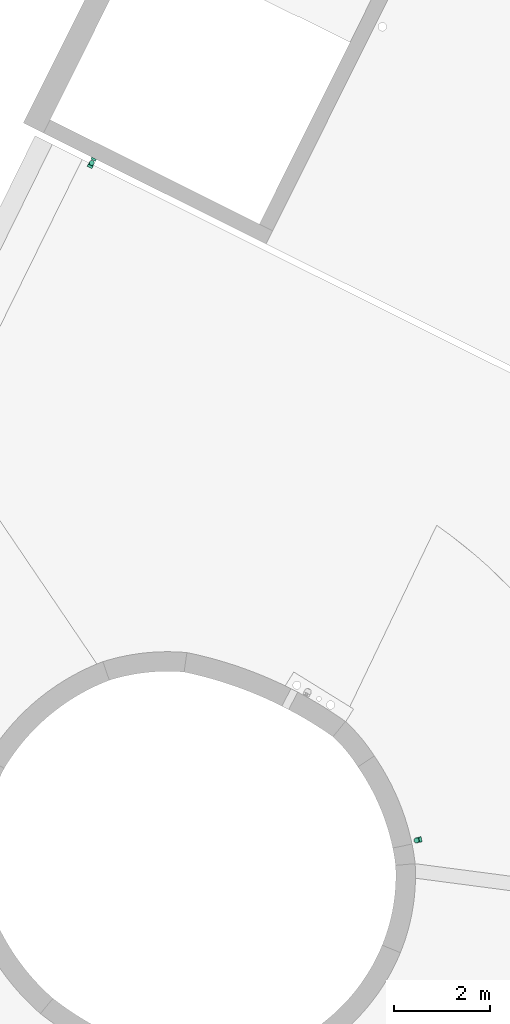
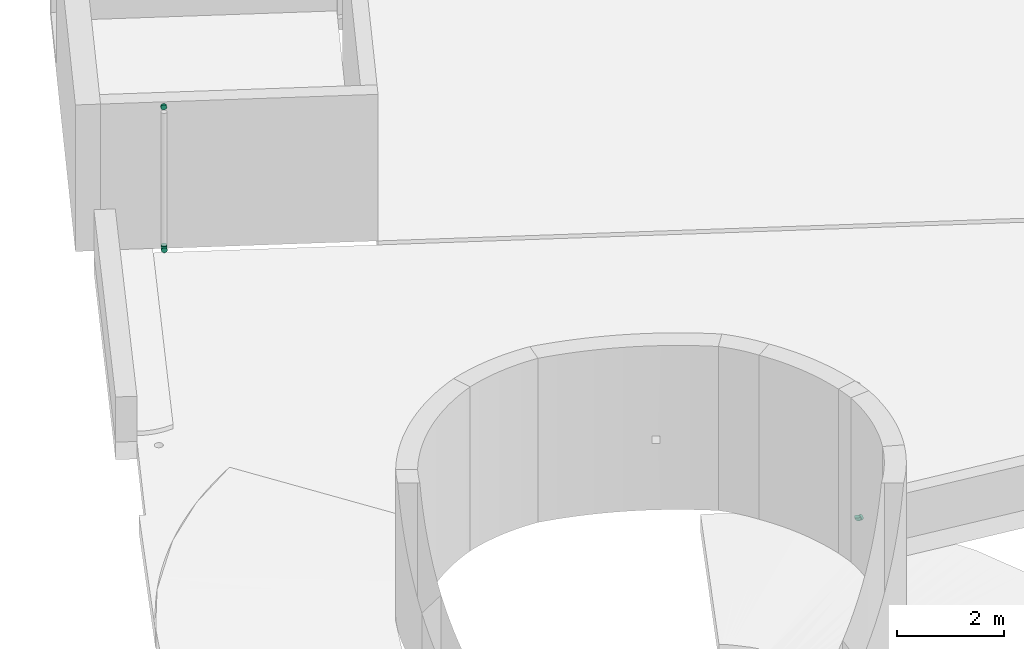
# One storey, part 16 of 34: 3 flow segments, 2 flow fittings.
"""IFC2X3 building model written with IfcOpenShell, lengths in metres."""

from ifc_helpers import new_model, entity, si_unit, converted_unit, derived_unit, direction, frame, frame_2d, origin, origin_2d_with_axis, place, context, subcontext, project, spatial, circle, extrude, faceted_brep, source, transform, mapped, type_object, type_shapes, element, save


model = new_model("IFC2X3")

# Units and contexts
model_context = context("Model", 3, precision=1e-05, world=origin(), true_north=direction((0.894925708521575, 0.446215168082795)))
context_of_model = context(None, 3, precision=1e-05, world=origin(), true_north=direction((0.894925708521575, 0.446215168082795)))
body_context = subcontext(model_context, "Body", "Model", "MODEL_VIEW")
ifc_project = project(units=[si_unit("LENGTHUNIT", "METRE"), si_unit("AREAUNIT", "SQUARE_METRE"), si_unit("VOLUMEUNIT", "CUBIC_METRE"), converted_unit("PLANEANGLEUNIT", "DEGREE", entity("IfcRatioMeasure", 0.0174532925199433), si_unit("PLANEANGLEUNIT", "RADIAN"), dimensions=[0, 0, 0, 0, 0, 0, 0]), si_unit("MASSUNIT", "GRAM", prefix="KILO"), si_unit("TIMEUNIT", "SECOND"), si_unit("FREQUENCYUNIT", "HERTZ"), si_unit("THERMODYNAMICTEMPERATUREUNIT", "DEGREE_CELSIUS"), derived_unit("THERMALTRANSMITTANCEUNIT", [(si_unit("MASSUNIT", "GRAM", prefix="KILO"), 1), (si_unit("THERMODYNAMICTEMPERATUREUNIT", "KELVIN"), -1), (si_unit("TIMEUNIT", "SECOND"), -3)]), derived_unit("VOLUMETRICFLOWRATEUNIT", [(si_unit("LENGTHUNIT", "METRE"), 3), (si_unit("TIMEUNIT", "SECOND"), -1)]), si_unit("ELECTRICCURRENTUNIT", "AMPERE"), si_unit("ELECTRICVOLTAGEUNIT", "VOLT"), si_unit("POWERUNIT", "WATT"), si_unit("FORCEUNIT", "NEWTON", prefix="KILO"), si_unit("ILLUMINANCEUNIT", "LUX"), si_unit("LUMINOUSFLUXUNIT", "LUMEN"), si_unit("LUMINOUSINTENSITYUNIT", "CANDELA"), si_unit("PRESSUREUNIT", "PASCAL")], contexts=[model_context, context_of_model])

# Site, building, storey
site_placement = place(None, frame((218.228324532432, 584.720189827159, 0.0), z_axis=(0.0, 0.0, 1.0), x_axis=(0.446215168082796, 0.894925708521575, 0.0)))
site = spatial("IfcSite", under=ifc_project, at=site_placement, Name="Default", CompositionType="ELEMENT")
building_placement = place(site_placement, origin())
building = spatial("IfcBuilding", under=site, at=building_placement, CompositionType="ELEMENT")
storey_placement = place(building_placement, frame((0.0, 0.0, 8.61)))
storey = spatial("IfcBuildingStorey", under=building, at=storey_placement, Name="2 - Piano Secondo", CompositionType="ELEMENT", Elevation=8.61)

# Flow segments
pipe_segment_type = type_object("IfcPipeSegmentType", Name="Tubazione:Pluviale-Tubazione Inox", PredefinedType="NOTDEFINED")
flow_segment_1_placement = place(storey_placement, frame((-60.7453368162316, 4.75017573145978, 0.0484047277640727)))
element("IfcFlowSegment", 1, at=flow_segment_1_placement, inside=storey, type_object=pipe_segment_type, Name="Tubazione:Pluviale-Tubazione Inox", ObjectType="Tubazione:Pluviale-Tubazione Inox", context=body_context, shape_type="SweptSolid", body=[
    extrude(circle(Radius=0.05715, at=frame_2d((5.41433564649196e-16, 0.0), x_axis=(1.0, 0.0))), frame((0.0, 0.0587452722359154, 0.0587452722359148), z_axis=(1.0, 0.0, 0.0), x_axis=(0.0, 1.0, 0.0)), (0.0, 0.0, 1.0), 0.0499999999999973),
])
flow_segment_2_placement = place(storey_placement, frame((-60.5778618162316, 4.75017573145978, 3.18840472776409)))
element("IfcFlowSegment", 2, at=flow_segment_2_placement, inside=storey, type_object=pipe_segment_type, Name="Tubazione:Pluviale-Tubazione Inox", ObjectType="Tubazione:Pluviale-Tubazione Inox", context=body_context, shape_type="SweptSolid", body=[
    extrude(circle(Radius=0.05715, at=origin_2d_with_axis()), frame((0.0, 0.0587452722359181, 0.0587452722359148), z_axis=(1.0, 0.0, 0.0), x_axis=(0.0, -1.0, 0.0)), (0.0, 0.0, 1.0), 0.0462625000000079),
])
flow_segment_3_placement = place(storey_placement, frame((-70.2756130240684, -7.68673129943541, 0.0484047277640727)))
element("IfcFlowSegment", 3, at=flow_segment_3_placement, inside=storey, type_object=pipe_segment_type, Name="Tubazione:Pluviale-Tubazione Inox", ObjectType="Tubazione:Pluviale-Tubazione Inox", context=body_context, shape_type="SweptSolid", body=[
    extrude(circle(Radius=0.05715, at=origin_2d_with_axis()), frame((0.0459949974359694, 0.0764233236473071, 0.0587452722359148), z_axis=(0.629626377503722, -0.776898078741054, 0.0), x_axis=(-0.776898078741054, -0.629626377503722, 0.0)), (0.0, 0.0, 1.0), 0.0499999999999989),
])

# Flow fittings
pipe_fitting_type = type_object("IfcPipeFittingType", Name="Standard", PredefinedType="NOTDEFINED")
shared_shape = source(origin(), body_context, "Body", "Brep", [
    faceted_brep([(-0.0587374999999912, 0.0135588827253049, -0.0506024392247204), (-0.0587374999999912, 0.0, -0.0523875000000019), (-0.0587374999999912, -0.0135588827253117, -0.0506024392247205), (-0.0587374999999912, -0.0261937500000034, -0.0453689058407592), (-0.0587374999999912, -0.0370435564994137, -0.0370435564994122), (-0.0587374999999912, -0.0453689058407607, -0.026193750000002), (-0.0587374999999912, -0.0506024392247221, -0.0135588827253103), (-0.0587374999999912, -0.0523875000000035, 0.0), (-0.0587374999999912, -0.0506024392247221, 0.0135588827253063), (-0.0587374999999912, -0.0453689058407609, 0.026193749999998), (-0.0587374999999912, -0.0370435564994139, 0.0370435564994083), (-0.0587374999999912, -0.0261937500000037, 0.0453689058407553), (-0.0587374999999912, -0.013558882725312, 0.0506024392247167), (-0.0587374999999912, 0.0, 0.0523874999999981), (-0.0587374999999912, 0.0135588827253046, 0.0506024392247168), (-0.0587374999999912, 0.0198763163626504, 0.0479856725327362), (-0.0587374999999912, 0.0261937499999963, 0.0453689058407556), (-0.0587374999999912, 0.0370435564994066, 0.0370435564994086), (-0.0587374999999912, 0.0453689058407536, 0.0261937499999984), (-0.0587374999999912, 0.050602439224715, 0.0135588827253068), (-0.0587374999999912, 0.0523874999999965, 0.0), (-0.0587374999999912, 0.0506024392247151, -0.0135588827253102), (-0.0587374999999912, 0.0453689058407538, -0.0261937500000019), (-0.0587374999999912, 0.0370435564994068, -0.0370435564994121), (-0.0587374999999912, 0.0261937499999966, -0.0453689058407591), (-0.0506024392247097, 0.0587374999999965, -0.0135588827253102), (-0.0523874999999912, 0.0587374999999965, 0.0), (-0.0506024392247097, 0.0587374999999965, 0.0135588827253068), (-0.0453689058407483, 0.0587374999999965, 0.0261937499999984), (-0.0370435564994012, 0.0587374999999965, 0.0370435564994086), (-0.0261937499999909, 0.0587374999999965, 0.0453689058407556), (-0.0135588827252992, 0.0587374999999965, 0.0506024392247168), (0.0, 0.0587374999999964, 0.0523874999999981), (0.0135588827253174, 0.0587374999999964, 0.0506024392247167), (0.026193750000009, 0.0587374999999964, 0.0453689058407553), (0.0370435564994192, 0.0587374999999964, 0.0370435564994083), (0.0453689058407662, 0.0587374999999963, 0.026193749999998), (0.0506024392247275, 0.0587374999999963, 0.0135588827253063), (0.0523875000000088, 0.0587374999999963, 0.0), (0.0506024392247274, 0.0587374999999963, -0.0135588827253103), (0.0453689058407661, 0.0587374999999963, -0.026193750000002), (0.037043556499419, 0.0587374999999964, -0.0370435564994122), (0.0261937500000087, 0.0587374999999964, -0.0453689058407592), (0.0135588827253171, 0.0587374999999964, -0.0506024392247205), (0.0, 0.0587374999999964, -0.0523875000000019), (-0.0135588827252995, 0.0587374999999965, -0.0506024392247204), (-0.0198763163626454, 0.0587374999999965, -0.0479856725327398), (-0.0261937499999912, 0.0587374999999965, -0.0453689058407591), (-0.0370435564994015, 0.0587374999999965, -0.0370435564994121), (-0.0453689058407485, 0.0587374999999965, -0.0261937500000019), (-0.0477232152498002, -0.0428768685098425, 0.029234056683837), (-0.0404424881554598, -0.0487405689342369, 0.0146871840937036), (-0.0330754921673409, -0.0426115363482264, 0.02541456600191), (-0.0415677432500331, -0.049668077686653, 0.0), (0.0487405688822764, 0.0404424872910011, 0.0146871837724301), (0.031246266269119, 0.0148508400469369, 0.0321295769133), (0.0388833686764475, 0.0178115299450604, 0.0229045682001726), (0.0367285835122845, 0.0270467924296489, 0.0315108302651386), (-0.0199941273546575, -0.0437374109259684, 0.0127317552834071), (-0.0243979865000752, -0.0469486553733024, 0.0), (-0.00890892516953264, -0.039056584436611, 0.0), (0.0201213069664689, 0.0171012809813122, 0.042637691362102), (0.0230744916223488, 0.037920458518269, 0.0456608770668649), (0.00972866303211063, 0.0282591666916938, 0.0498177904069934), (-0.0491222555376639, 0.0144700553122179, 0.0506347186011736), (-0.0461599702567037, 0.0299660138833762, 0.0446893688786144), (-0.0379204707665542, -0.0230744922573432, 0.0456608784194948), (-0.0171012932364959, -0.0201213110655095, 0.0426376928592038), (-0.028259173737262, -0.00972866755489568, 0.0498177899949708), (-0.040589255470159, -0.0342234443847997, 0.0380789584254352), (-0.0270467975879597, -0.0367285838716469, 0.0315108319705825), (-0.0271152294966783, -0.0291112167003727, 0.03930979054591), (-0.0534446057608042, 0.0534446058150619, 0.0108471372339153), (-0.0495063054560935, 0.0496646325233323, 0.025443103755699), (-0.0173243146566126, 0.0419210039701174, 0.0504710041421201), (-0.00371546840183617, 0.0428654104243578, 0.0523668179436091), (-0.0450087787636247, -0.00973337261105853, 0.0511988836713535), (-0.0299568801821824, 0.046486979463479, 0.0446150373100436), (-0.0399230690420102, 0.0173966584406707, 0.0506667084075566), (-0.0424424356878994, 0.00369105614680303, 0.052370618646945), (-0.0263131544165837, 0.00911196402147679, 0.0523846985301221), (-0.00146414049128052, -0.0204367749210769, 0.0349996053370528), (0.00326567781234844, -0.0262911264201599, 0.0241349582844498), (0.0134674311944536, -0.014700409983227, 0.0280406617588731), (-0.051439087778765, 0.0405009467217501, 0.0348719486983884), (0.00973337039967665, 0.0450087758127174, 0.0511988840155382), (0.035173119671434, 0.00432985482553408, 0.0162746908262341), (0.0311645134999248, -0.00658013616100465, 0.0), (0.0390565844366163, 0.00890892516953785, 0.0), (0.00819521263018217, -0.00866873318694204, 0.0378156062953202), (-0.00965050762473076, -0.0101996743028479, 0.0455427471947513), (0.0428768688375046, 0.047723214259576, 0.0292340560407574), (-0.0246124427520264, 0.0342586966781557, 0.0496407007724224), (-0.0333214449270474, 0.0280057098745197, 0.048875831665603), (-0.0208506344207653, 0.0237046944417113, 0.0518992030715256), (0.0342234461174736, 0.0405892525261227, 0.0380789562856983), (0.0291112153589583, 0.0271152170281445, 0.0393097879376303), (0.0469486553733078, 0.0243979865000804, 0.0), (0.0496680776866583, 0.0415677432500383, 0.0), (0.043737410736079, 0.0199941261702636, 0.0127317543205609), (-0.00986713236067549, 0.0306998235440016, 0.0523327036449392), (-0.0542473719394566, 0.0542473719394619, 0.0), (-0.0405009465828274, 0.0514390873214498, 0.0348719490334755), (-0.0424073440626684, 0.0424073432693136, 0.0383928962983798), (0.0238466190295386, -0.0126740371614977, 0.0141509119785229), (-0.0141620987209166, -0.000990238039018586, 0.0499511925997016), (-0.00750695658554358, 0.0132290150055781, 0.0514652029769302), (0.00658013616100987, -0.0311645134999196, 0.0), (-0.00432985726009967, -0.0351731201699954, 0.0162746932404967), (0.042611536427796, 0.0330754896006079, 0.025414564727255), (-0.0347196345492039, 0.037964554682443, 0.0449042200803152), (0.000171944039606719, 0.0306895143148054, 0.0519816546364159), (-0.0178115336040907, -0.0388833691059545, 0.022904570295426), (0.0188723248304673, -0.0188723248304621, 0.0), (0.0120090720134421, -0.0250981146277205, 0.0121471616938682), (0.0200875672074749, 0.000757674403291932, 0.0348495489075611), (0.024463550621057, -0.0051316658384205, 0.0247890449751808), (0.000788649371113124, -0.000788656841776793, 0.0457929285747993), (0.00240405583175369, 0.0189002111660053, 0.0504158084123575), (0.0110535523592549, 0.0154294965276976, 0.0468715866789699), (-0.0148508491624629, -0.0312462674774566, 0.0321295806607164), (0.0125287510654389, 0.00468746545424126, 0.0424445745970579), (-0.0144700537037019, 0.0491222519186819, -0.0506347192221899), (-0.00432985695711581, -0.0351731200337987, -0.0162746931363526), (-0.0199941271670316, -0.0437374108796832, -0.0127317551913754), (-0.041921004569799, 0.0173243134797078, -0.0504710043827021), (-0.0428654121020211, 0.00371546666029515, -0.0523668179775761), (-0.0496646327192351, 0.0495063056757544, -0.0254431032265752), (-0.0424073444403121, 0.0424073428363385, -0.0383928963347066), (-0.0514390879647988, 0.0405009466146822, -0.0348719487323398), (0.020436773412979, 0.00146413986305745, -0.0349996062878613), (0.00866872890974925, -0.00819521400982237, -0.0378156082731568), (0.0101996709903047, 0.00965050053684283, -0.0455427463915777), (-0.0171012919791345, -0.020121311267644, -0.0426376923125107), (-0.0148508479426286, -0.0312462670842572, -0.0321295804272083), (-0.027115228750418, -0.0291112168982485, -0.0393097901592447), (-0.00911196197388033, 0.0263131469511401, -0.0523846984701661), (0.00972866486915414, 0.0282591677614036, -0.049817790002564), (0.000990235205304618, 0.0141620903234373, -0.0499511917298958), (-0.0132290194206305, 0.0075069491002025, -0.0514652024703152), (-0.0237046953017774, 0.0208506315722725, -0.0518992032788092), (-0.0404424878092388, -0.0487405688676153, -0.014687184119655), (-0.0477232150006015, -0.0428768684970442, -0.0292340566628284), (-0.0280057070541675, 0.0333214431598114, -0.0488758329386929), (-0.0299660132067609, 0.0461599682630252, -0.0446893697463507), (-0.0173966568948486, 0.0399230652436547, -0.0506667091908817), (-0.0534446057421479, 0.0534446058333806, -0.0108471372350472), (-0.0405892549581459, -0.034223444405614, -0.0380789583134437), (-0.0379204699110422, -0.0230744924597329, -0.0456608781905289), (-0.0282591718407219, -0.00972866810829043, -0.0498177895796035), (-0.0342586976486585, 0.0246124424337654, -0.0496407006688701), (-0.0464869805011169, 0.0299568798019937, -0.044615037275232), (-0.045008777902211, -0.00973337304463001, -0.0511988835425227), (-0.0178115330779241, -0.0388833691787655, -0.022904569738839), (-0.0270467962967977, -0.0367285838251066, -0.0315108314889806), (-0.0330754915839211, -0.0426115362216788, -0.0254145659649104), (0.0230744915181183, 0.0379204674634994, -0.0456608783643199), (0.0291112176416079, 0.0271152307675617, -0.0393097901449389), (0.0201213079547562, 0.0171012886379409, -0.0426376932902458), (-0.040500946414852, 0.0514390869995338, -0.0348719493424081), (-0.00369105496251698, 0.0424424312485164, -0.0523706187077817), (0.0428768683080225, 0.0477232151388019, -0.0292340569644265), (0.00973337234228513, 0.045008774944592, -0.0511988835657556), (0.0342234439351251, 0.0405892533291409, -0.0380789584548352), (0.0262911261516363, -0.00326567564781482, -0.0241349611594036), (0.0147004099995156, -0.0134674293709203, -0.0280406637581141), (0.0487405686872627, 0.0404424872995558, -0.0146871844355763), (0.0437374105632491, 0.0199941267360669, -0.0127317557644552), (0.0426115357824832, 0.0330754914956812, -0.0254145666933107), (0.0126740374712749, -0.0238466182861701, -0.0141509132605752), (-0.0306998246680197, 0.00986712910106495, -0.052332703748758), (0.0367285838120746, 0.0270467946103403, -0.0315108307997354), (0.0351731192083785, 0.00432985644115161, -0.0162746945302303), (-0.0379645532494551, 0.0347196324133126, -0.0449042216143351), (-0.0306895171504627, -0.000171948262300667, -0.0519816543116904), (0.0388833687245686, 0.0178115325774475, -0.0229045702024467), (0.025098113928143, -0.0120090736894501, -0.0121471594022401), (-0.000757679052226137, -0.0200875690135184, -0.0348495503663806), (0.0051316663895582, -0.0244635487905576, -0.0247890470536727), (0.000788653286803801, -0.000788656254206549, -0.0457929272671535), (-0.0189002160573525, -0.00240406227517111, -0.050415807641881), (-0.0154295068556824, -0.0110535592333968, -0.0468715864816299), (0.0312462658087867, 0.0148508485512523, -0.0321295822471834), (-0.00468747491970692, -0.0125287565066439, -0.0424445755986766)], [[[0, 1, 2, 3, 4, 5, 6, 7, 8, 9, 10, 11, 12, 13, 14, 15, 16, 17, 18, 19, 20, 21, 22, 23, 24]], [[25, 26, 27, 28, 29, 30, 31, 32, 33, 34, 35, 36, 37, 38, 39, 40, 41, 42, 43, 44, 45, 46, 47, 48, 49]], [[50, 51, 52]], [[53, 8, 7]], [[36, 54, 37]], [[55, 56, 57]], [[58, 59, 60]], [[61, 62, 63]], [[64, 65, 16]], [[66, 67, 68]], [[11, 69, 66]], [[70, 71, 69]], [[72, 73, 27]], [[31, 74, 75]], [[66, 68, 76]], [[13, 12, 76]], [[30, 77, 74]], [[16, 15, 14, 64]], [[78, 79, 80]], [[81, 82, 83]], [[51, 9, 8]], [[18, 17, 84]], [[30, 29, 77]], [[84, 73, 18]], [[72, 20, 19]], [[12, 11, 66]], [[16, 65, 17]], [[10, 9, 50]], [[33, 32, 85]], [[18, 73, 19]], [[62, 33, 85]], [[86, 87, 88]], [[81, 89, 90]], [[33, 62, 34]], [[35, 91, 36]], [[75, 32, 31]], [[92, 93, 94]], [[36, 91, 54]], [[62, 95, 34]], [[61, 55, 96]], [[54, 97, 98]], [[93, 65, 78]], [[97, 99, 88]], [[100, 75, 74]], [[101, 20, 72]], [[11, 10, 69]], [[101, 72, 26]], [[66, 71, 67]], [[102, 73, 103]], [[86, 88, 99]], [[28, 102, 29]], [[87, 86, 104]], [[28, 27, 73]], [[80, 68, 105]], [[106, 94, 80]], [[31, 30, 74]], [[14, 13, 79]], [[107, 108, 60]], [[35, 34, 95]], [[54, 109, 99]], [[8, 53, 51]], [[98, 37, 54]], [[76, 79, 13]], [[78, 80, 94]], [[93, 78, 94]], [[84, 65, 103]], [[102, 77, 29]], [[65, 93, 110]], [[74, 92, 100]], [[75, 111, 85]], [[57, 96, 55]], [[91, 95, 109]], [[50, 69, 10]], [[70, 52, 112]], [[51, 59, 58]], [[59, 51, 53]], [[38, 37, 98]], [[108, 112, 58]], [[58, 112, 52]], [[107, 113, 114]], [[61, 115, 55]], [[116, 115, 83]], [[99, 56, 86]], [[55, 115, 116]], [[108, 58, 60]], [[51, 58, 52]], [[54, 99, 97]], [[99, 109, 56]], [[79, 68, 80]], [[106, 105, 117]], [[63, 111, 118]], [[100, 111, 75]], [[119, 63, 118]], [[81, 83, 89]], [[81, 67, 120]], [[105, 90, 117]], [[121, 115, 61]], [[83, 104, 116]], [[83, 82, 114]], [[114, 113, 104]], [[83, 114, 104]], [[113, 87, 104]], [[108, 107, 114]], [[82, 120, 108]], [[83, 115, 89]], [[120, 82, 81]], [[114, 82, 108]], [[121, 89, 115]], [[90, 89, 117]], [[75, 85, 32]], [[62, 85, 63]], [[66, 76, 12]], [[79, 76, 68]], [[94, 100, 92]], [[103, 110, 77]], [[94, 106, 100]], [[106, 118, 111]], [[106, 111, 100]], [[85, 111, 63]], [[106, 117, 118]], [[117, 121, 119]], [[74, 77, 92]], [[110, 92, 77]], [[104, 86, 116]], [[55, 116, 86]], [[108, 120, 112]], [[70, 112, 120]], [[71, 70, 120]], [[69, 52, 70]], [[67, 71, 120]], [[69, 71, 66]], [[57, 56, 109]], [[55, 86, 56]], [[109, 95, 57]], [[96, 95, 62]], [[95, 96, 57]], [[61, 96, 62]], [[73, 102, 28]], [[77, 102, 103]], [[65, 84, 17]], [[73, 84, 103]], [[80, 105, 106]], [[90, 68, 67]], [[68, 90, 105]], [[81, 90, 67]], [[73, 72, 19]], [[26, 72, 27]], [[51, 50, 9]], [[69, 50, 52]], [[95, 91, 35]], [[54, 91, 109]], [[78, 65, 64]], [[14, 79, 64]], [[79, 78, 64]], [[119, 121, 61]], [[89, 121, 117]], [[63, 119, 61]], [[117, 119, 118]], [[65, 110, 103]], [[92, 110, 93]], [[46, 45, 122, 47]], [[123, 60, 124]], [[125, 0, 24]], [[1, 0, 126]], [[127, 128, 129]], [[59, 124, 60]], [[22, 129, 23]], [[130, 131, 132]], [[22, 21, 127]], [[133, 134, 135]], [[136, 137, 138]], [[139, 140, 136]], [[141, 5, 142]], [[143, 144, 145]], [[141, 59, 53]], [[146, 127, 21]], [[147, 3, 148]], [[133, 148, 149]], [[2, 148, 3]], [[150, 143, 140]], [[24, 23, 151]], [[142, 5, 4]], [[4, 3, 147]], [[2, 152, 148]], [[123, 107, 60]], [[134, 153, 154]], [[20, 101, 146]], [[141, 155, 124]], [[26, 25, 146]], [[156, 157, 158]], [[49, 159, 127]], [[122, 144, 47]], [[45, 44, 160]], [[48, 159, 49]], [[41, 40, 161]], [[145, 160, 136]], [[156, 137, 162]], [[151, 125, 24]], [[144, 48, 47]], [[0, 125, 126]], [[43, 162, 44]], [[163, 156, 42]], [[130, 164, 165]], [[166, 40, 39]], [[167, 97, 88]], [[137, 156, 158]], [[2, 1, 152]], [[168, 161, 166]], [[107, 123, 169]], [[38, 98, 39]], [[42, 41, 163]], [[170, 126, 125]], [[171, 157, 163]], [[43, 42, 156]], [[5, 141, 6]], [[39, 98, 166]], [[20, 146, 21]], [[87, 172, 88]], [[49, 127, 25]], [[53, 6, 141]], [[162, 160, 44]], [[145, 136, 140]], [[143, 145, 140]], [[159, 144, 128]], [[129, 151, 23]], [[144, 143, 173]], [[125, 150, 170]], [[126, 174, 152]], [[154, 135, 134]], [[142, 147, 155]], [[161, 163, 41]], [[171, 168, 175]], [[166, 97, 167]], [[97, 166, 98]], [[7, 6, 53]], [[172, 175, 167]], [[167, 175, 168]], [[87, 113, 176]], [[133, 177, 134]], [[178, 177, 165]], [[124, 153, 123]], [[134, 177, 178]], [[172, 167, 88]], [[166, 167, 168]], [[141, 124, 59]], [[124, 155, 153]], [[160, 137, 136]], [[139, 138, 179]], [[149, 174, 180]], [[170, 174, 126]], [[181, 149, 180]], [[130, 165, 131]], [[130, 158, 182]], [[138, 132, 179]], [[183, 177, 133]], [[165, 169, 178]], [[165, 164, 176]], [[176, 113, 169]], [[165, 176, 169]], [[113, 107, 169]], [[172, 87, 176]], [[164, 182, 172]], [[165, 177, 131]], [[182, 164, 130]], [[176, 164, 172]], [[183, 131, 177]], [[132, 131, 179]], [[126, 152, 1]], [[148, 152, 149]], [[156, 162, 43]], [[160, 162, 137]], [[140, 170, 150]], [[128, 173, 151]], [[140, 139, 170]], [[139, 180, 174]], [[139, 174, 170]], [[152, 174, 149]], [[139, 179, 180]], [[179, 183, 181]], [[125, 151, 150]], [[173, 150, 151]], [[169, 123, 178]], [[134, 178, 123]], [[172, 182, 175]], [[171, 175, 182]], [[157, 171, 182]], [[163, 168, 171]], [[158, 157, 182]], [[163, 157, 156]], [[154, 153, 155]], [[134, 123, 153]], [[155, 147, 154]], [[135, 147, 148]], [[147, 135, 154]], [[133, 135, 148]], [[127, 129, 22]], [[151, 129, 128]], [[144, 159, 48]], [[127, 159, 128]], [[136, 138, 139]], [[132, 137, 158]], [[137, 132, 138]], [[130, 132, 158]], [[26, 146, 101]], [[127, 146, 25]], [[166, 161, 40]], [[163, 161, 168]], [[147, 142, 4]], [[141, 142, 155]], [[145, 144, 122]], [[45, 160, 122]], [[160, 145, 122]], [[181, 183, 133]], [[131, 183, 179]], [[149, 181, 133]], [[179, 181, 180]], [[144, 173, 128]], [[150, 173, 143]]]),
])
type_shapes(pipe_fitting_type, [shared_shape])
for number, where, z_axis, x_axis, name in (
    (4, (-60.6365993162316, 4.80892100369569, 0.107149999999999), (0.0, -1.0, 0.0), (1.0, 0.0, 0.0), "M_Gomito - Generico:Standard"),
    (5, (-70.266600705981, -7.56467492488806, 0.107149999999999), (0.776898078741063, 0.629626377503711, 0.0), (-0.629626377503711, 0.776898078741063, 0.0), "M_Gomito - Generico:Standard"),
):
    element("IfcFlowFitting", number, at=place(storey_placement, frame(where, z_axis=z_axis, x_axis=x_axis)), inside=storey, type_object=pipe_fitting_type, Name=name, ObjectType="Standard", context=body_context, shape_type="MappedRepresentation", body=[
        mapped(shared_shape, transform((0.0, 0.0, 0.0), scale=1.0)),
    ])

save(model, "model.ifc")
